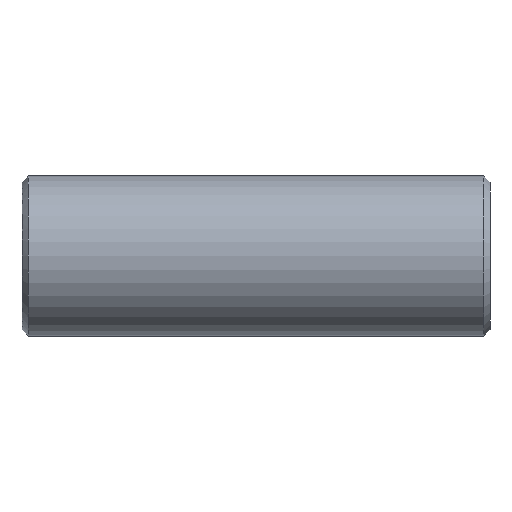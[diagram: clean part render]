
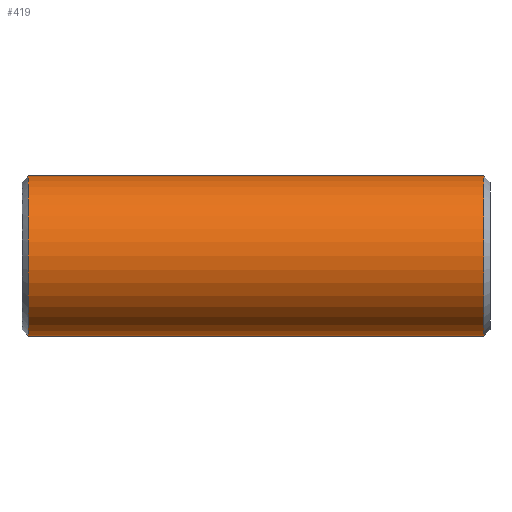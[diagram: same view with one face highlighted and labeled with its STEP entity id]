
A CAD part, front view. The second image highlights one B-rep face of the part: STEP entity #419.
In plain terms, the highlighted cylindrical face has radius 13 mm (diameter 26 mm), a partial arc.
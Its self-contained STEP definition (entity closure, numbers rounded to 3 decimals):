
#231=CARTESIAN_POINT('Vertex',(1.,0.,-13.)) ;
#238=CARTESIAN_POINT('Vertex',(1.,0.,13.)) ;
#267=CARTESIAN_POINT('Axis2P3D Location',(1.,0.,0.)) ;
#271=CARTESIAN_POINT('Vertex',(1.,-13.,0.)) ;
#274=CARTESIAN_POINT('Axis2P3D Location',(1.,0.,0.)) ;
#359=CARTESIAN_POINT('Line Origine',(76.,0.,13.)) ;
#363=CARTESIAN_POINT('Vertex',(75.,0.,13.)) ;
#377=CARTESIAN_POINT('Vertex',(75.,0.,-13.)) ;
#380=CARTESIAN_POINT('Line Origine',(76.,0.,-13.)) ;
#394=CARTESIAN_POINT('Axis2P3D Location',(76.,0.,0.)) ;
#399=CARTESIAN_POINT('Axis2P3D Location',(75.,0.,0.)) ;
#403=CARTESIAN_POINT('Vertex',(75.,-13.,0.)) ;
#406=CARTESIAN_POINT('Axis2P3D Location',(75.,0.,0.)) ;
#268=DIRECTION('Axis2P3D Direction',(1.,0.,-0.)) ;
#275=DIRECTION('Axis2P3D Direction',(1.,0.,-0.)) ;
#360=DIRECTION('Vector Direction',(-1.,0.,0.)) ;
#381=DIRECTION('Vector Direction',(-1.,0.,0.)) ;
#395=DIRECTION('Axis2P3D Direction',(-1.,-0.,-0.)) ;
#396=DIRECTION('Axis2P3D XDirection',(0.,0.,-1.)) ;
#400=DIRECTION('Axis2P3D Direction',(-1.,-0.,-0.)) ;
#407=DIRECTION('Axis2P3D Direction',(-1.,-0.,-0.)) ;
#269=AXIS2_PLACEMENT_3D('Circle Axis2P3D',#267,#268,$) ;
#276=AXIS2_PLACEMENT_3D('Circle Axis2P3D',#274,#275,$) ;
#397=AXIS2_PLACEMENT_3D('Cylinder Axis2P3D',#394,#395,#396) ;
#401=AXIS2_PLACEMENT_3D('Circle Axis2P3D',#399,#400,$) ;
#408=AXIS2_PLACEMENT_3D('Circle Axis2P3D',#406,#407,$) ;
#412=ORIENTED_EDGE('',*,*,#384,.T.) ;
#413=ORIENTED_EDGE('',*,*,#405,.F.) ;
#414=ORIENTED_EDGE('',*,*,#410,.F.) ;
#415=ORIENTED_EDGE('',*,*,#365,.T.) ;
#416=ORIENTED_EDGE('',*,*,#278,.T.) ;
#417=ORIENTED_EDGE('',*,*,#273,.T.) ;
#361=VECTOR('Line Direction',#360,1.) ;
#382=VECTOR('Line Direction',#381,1.) ;
#419=ADVANCED_FACE('352-18X76',(#418),#398,.T.) ;
#270=CIRCLE('generated circle',#269,13.) ;
#277=CIRCLE('generated circle',#276,13.) ;
#402=CIRCLE('generated circle',#401,13.) ;
#409=CIRCLE('generated circle',#408,13.) ;
#398=CYLINDRICAL_SURFACE('generated cylinder',#397,13.) ;
#273=EDGE_CURVE('',#272,#232,#270,.T.) ;
#278=EDGE_CURVE('',#239,#272,#277,.T.) ;
#365=EDGE_CURVE('',#364,#239,#362,.T.) ;
#384=EDGE_CURVE('',#232,#378,#383,.F.) ;
#405=EDGE_CURVE('',#404,#378,#402,.F.) ;
#410=EDGE_CURVE('',#364,#404,#409,.F.) ;
#411=EDGE_LOOP('',(#412,#413,#414,#415,#416,#417)) ;
#418=FACE_OUTER_BOUND('',#411,.T.) ;
#362=LINE('Line',#359,#361) ;
#383=LINE('Line',#380,#382) ;
#232=VERTEX_POINT('',#231) ;
#239=VERTEX_POINT('',#238) ;
#272=VERTEX_POINT('',#271) ;
#364=VERTEX_POINT('',#363) ;
#378=VERTEX_POINT('',#377) ;
#404=VERTEX_POINT('',#403) ;
